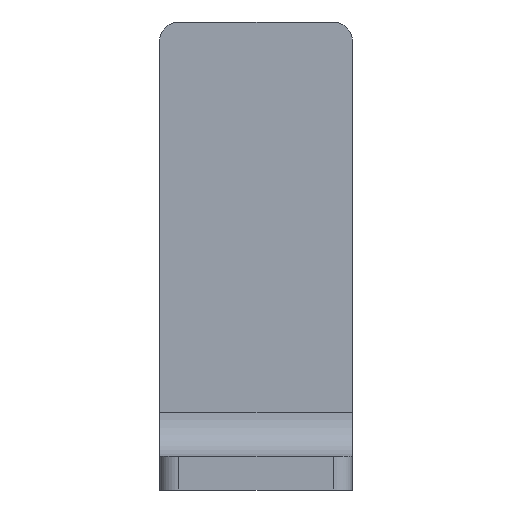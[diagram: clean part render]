
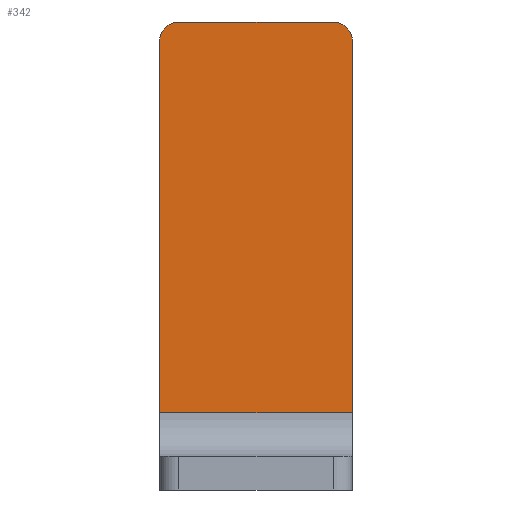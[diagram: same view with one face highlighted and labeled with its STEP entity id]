
A CAD part, front view. The second image highlights one B-rep face of the part: STEP entity #342.
In plain terms, the highlighted planar face has unit normal (0, -1, 0).
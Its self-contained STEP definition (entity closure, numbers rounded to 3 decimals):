
#22=PLANE('',#381);
#34=FACE_OUTER_BOUND('',#54,.T.);
#54=EDGE_LOOP('',(#249,#250,#251,#252,#253,#254));
#82=LINE('',#543,#110);
#84=LINE('',#549,#112);
#86=LINE('',#557,#114);
#87=LINE('',#560,#115);
#110=VECTOR('',#430,10.);
#112=VECTOR('',#436,10.);
#114=VECTOR('',#444,10.);
#115=VECTOR('',#447,10.);
#138=CIRCLE('',#382,2.);
#139=CIRCLE('',#383,2.);
#160=VERTEX_POINT('',#540);
#161=VERTEX_POINT('',#542);
#163=VERTEX_POINT('',#548);
#165=VERTEX_POINT('',#554);
#166=VERTEX_POINT('',#556);
#167=VERTEX_POINT('',#558);
#193=EDGE_CURVE('',#160,#161,#82,.T.);
#196=EDGE_CURVE('',#161,#163,#84,.T.);
#199=EDGE_CURVE('',#165,#160,#138,.T.);
#200=EDGE_CURVE('',#166,#165,#86,.T.);
#201=EDGE_CURVE('',#167,#166,#139,.T.);
#202=EDGE_CURVE('',#163,#167,#87,.T.);
#249=ORIENTED_EDGE('',*,*,#196,.F.);
#250=ORIENTED_EDGE('',*,*,#193,.F.);
#251=ORIENTED_EDGE('',*,*,#199,.F.);
#252=ORIENTED_EDGE('',*,*,#200,.F.);
#253=ORIENTED_EDGE('',*,*,#201,.F.);
#254=ORIENTED_EDGE('',*,*,#202,.F.);
#342=ADVANCED_FACE('',(#34),#22,.T.);
#381=AXIS2_PLACEMENT_3D('',#553,#440,#441);
#382=AXIS2_PLACEMENT_3D('',#555,#442,#443);
#383=AXIS2_PLACEMENT_3D('',#559,#445,#446);
#430=DIRECTION('',(0.,0.,-1.));
#436=DIRECTION('',(-1.,0.,0.));
#440=DIRECTION('center_axis',(0.,-1.,0.));
#441=DIRECTION('ref_axis',(1.,0.,0.));
#442=DIRECTION('center_axis',(0.,1.,0.));
#443=DIRECTION('ref_axis',(0.707,0.,0.707));
#444=DIRECTION('',(1.,0.,0.));
#445=DIRECTION('center_axis',(0.,1.,0.));
#446=DIRECTION('ref_axis',(-0.707,0.,0.707));
#447=DIRECTION('',(0.,0.,1.));
#540=CARTESIAN_POINT('',(10.,50.,104.1));
#542=CARTESIAN_POINT('',(10.,50.,65.6));
#543=CARTESIAN_POINT('',(10.,50.,71.1));
#548=CARTESIAN_POINT('',(-10.,50.,65.6));
#549=CARTESIAN_POINT('',(0.,50.,65.6));
#553=CARTESIAN_POINT('Origin',(0.,50.,81.1));
#554=CARTESIAN_POINT('',(8.,50.,106.1));
#555=CARTESIAN_POINT('Origin',(8.,50.,104.1));
#556=CARTESIAN_POINT('',(-8.,50.,106.1));
#557=CARTESIAN_POINT('',(0.,50.,106.1));
#558=CARTESIAN_POINT('',(-10.,50.,104.1));
#559=CARTESIAN_POINT('Origin',(-8.,50.,104.1));
#560=CARTESIAN_POINT('',(-10.,50.,71.1));
